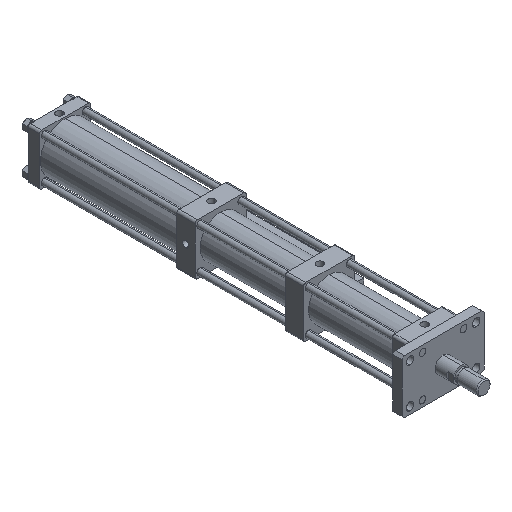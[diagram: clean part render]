
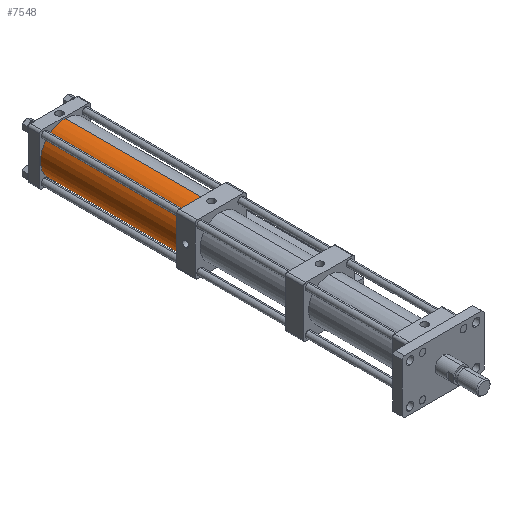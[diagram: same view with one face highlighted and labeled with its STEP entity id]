
A CAD part, isometric view. The second image highlights one B-rep face of the part: STEP entity #7548.
In plain terms, the highlighted cylindrical face has radius 54 mm (diameter 108 mm), a partial arc.
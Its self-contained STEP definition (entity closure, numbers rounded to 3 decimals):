
#21 = VERTEX_POINT ( 'NONE', #845 ) ;
#72 = VERTEX_POINT ( 'NONE', #271 ) ;
#271 = CARTESIAN_POINT ( 'NONE',  ( 0., 829.002, 52.362 ) ) ;
#408 = VECTOR ( 'NONE', #6162, 1000. ) ;
#482 = EDGE_CURVE ( 'NONE', #2980, #7924, #581, .T. ) ;
#531 = AXIS2_PLACEMENT_3D ( 'NONE', #1822, #6120, #2436 ) ;
#581 = LINE ( 'NONE', #4945, #408 ) ;
#654 = LINE ( 'NONE', #7820, #5224 ) ;
#845 = CARTESIAN_POINT ( 'NONE',  ( 0., 528.002, 52.362 ) ) ;
#981 = CIRCLE ( 'NONE', #531, 54. ) ;
#1783 = AXIS2_PLACEMENT_3D ( 'NONE', #2207, #7726, #6520 ) ;
#1822 = CARTESIAN_POINT ( 'NONE',  ( 0., 829.002, -1.638 ) ) ;
#1978 = CARTESIAN_POINT ( 'NONE',  ( 0., 528.002, -55.638 ) ) ;
#2207 = CARTESIAN_POINT ( 'NONE',  ( 0., 829.002, -1.638 ) ) ;
#2303 = CARTESIAN_POINT ( 'NONE',  ( 0., 528.002, -1.638 ) ) ;
#2436 = DIRECTION ( 'NONE',  ( 0., 0., 1. ) ) ;
#2490 = EDGE_LOOP ( 'NONE', ( #6337, #5102, #5826, #5783 ) ) ;
#2858 = EDGE_CURVE ( 'NONE', #7924, #21, #7157, .T. ) ;
#2932 = DIRECTION ( 'NONE',  ( 0., 0., 1. ) ) ;
#2980 = VERTEX_POINT ( 'NONE', #4282 ) ;
#3898 = CYLINDRICAL_SURFACE ( 'NONE', #1783, 54. ) ;
#4282 = CARTESIAN_POINT ( 'NONE',  ( 0., 829.002, -55.638 ) ) ;
#4775 = DIRECTION ( 'NONE',  ( 0., -1., 0. ) ) ;
#4945 = CARTESIAN_POINT ( 'NONE',  ( 0., 829.002, -55.638 ) ) ;
#5102 = ORIENTED_EDGE ( 'NONE', *, *, #5730, .F. ) ;
#5224 = VECTOR ( 'NONE', #4775, 1000. ) ;
#5730 = EDGE_CURVE ( 'NONE', #2980, #72, #981, .T. ) ;
#5783 = ORIENTED_EDGE ( 'NONE', *, *, #2858, .T. ) ;
#5826 = ORIENTED_EDGE ( 'NONE', *, *, #482, .T. ) ;
#6030 = EDGE_CURVE ( 'NONE', #72, #21, #654, .T. ) ;
#6120 = DIRECTION ( 'NONE',  ( 0., 1., 0. ) ) ;
#6162 = DIRECTION ( 'NONE',  ( 0., -1., 0. ) ) ;
#6337 = ORIENTED_EDGE ( 'NONE', *, *, #6030, .F. ) ;
#6520 = DIRECTION ( 'NONE',  ( 0., 0., -1. ) ) ;
#6615 = DIRECTION ( 'NONE',  ( 0., 1., 0. ) ) ;
#7150 = FACE_OUTER_BOUND ( 'NONE', #2490, .T. ) ;
#7157 = CIRCLE ( 'NONE', #7965, 54. ) ;
#7548 = ADVANCED_FACE ( 'NONE', ( #7150 ), #3898, .T. ) ;
#7726 = DIRECTION ( 'NONE',  ( 0., -1., 0. ) ) ;
#7820 = CARTESIAN_POINT ( 'NONE',  ( 0., 829.002, 52.362 ) ) ;
#7924 = VERTEX_POINT ( 'NONE', #1978 ) ;
#7965 = AXIS2_PLACEMENT_3D ( 'NONE', #2303, #6615, #2932 ) ;
